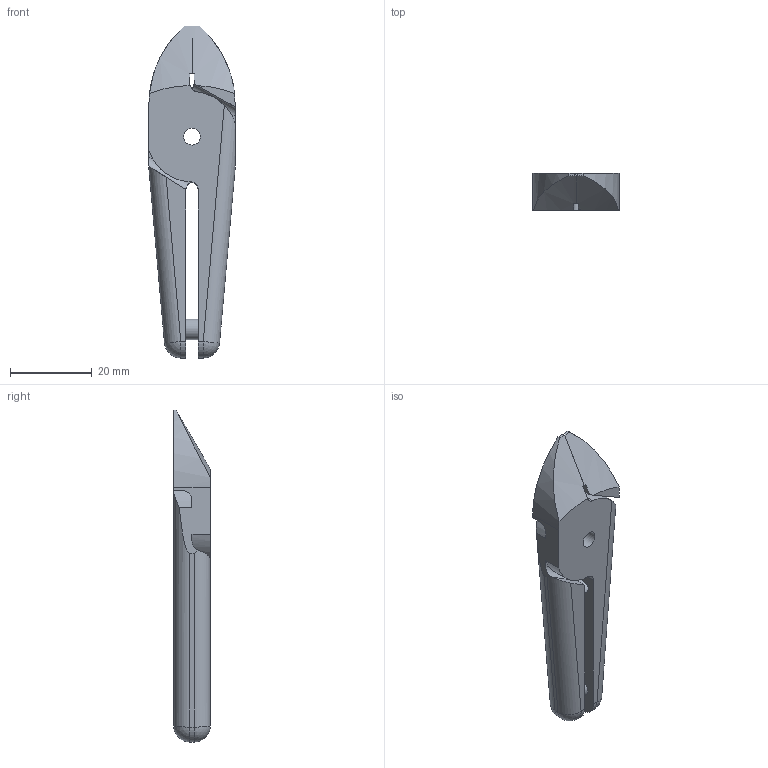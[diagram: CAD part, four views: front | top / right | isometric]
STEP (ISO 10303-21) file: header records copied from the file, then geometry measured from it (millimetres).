
FILE_DESCRIPTION(/* description */ (''),/* implementation_level */ '2;1');
FILE_NAME(/* name */ 'W:\Technik\Konstruktion\CAD-Daten\DJa\Vessel Schneidzangeneinsatz\N7HS\N7HS closed.stp',/* time_stamp */ '2016-09-19T12:22:05+02:00',/* author */ ('DJansen'),/* organization */ (''),/* preprocessor_version */ 'ST-DEVELOPER v16.5',/* originating_system */ 'Autodesk Inventor 2017',/* authorisation */ '');
FILE_SCHEMA (('AUTOMOTIVE_DESIGN { 1 0 10303 214 3 1 1 }'));
Length unit declared in the file: millimetre
Products named in the file (1): N7HS Baugruppe
Bounding box: 21 x 9 x 81 mm (x, y, z)
Volume: 9273.8 mm3; surface area: 4989.8 mm2
Topology: 1 solids, 1 shells, 71 faces, 188 edges, 120 vertices
Faces by surface type: plane 37, cylinder 30, sphere 4
Full cylindrical faces by diameter (mm): 4.1 x1, 5 x1, 5.5 x2
Entity records: 2330 total; most frequent: CARTESIAN_POINT 525, DIRECTION 381, ORIENTED_EDGE 368, EDGE_CURVE 183, AXIS2_PLACEMENT_3D 142, VERTEX_POINT 119, LINE 97, VECTOR 97
